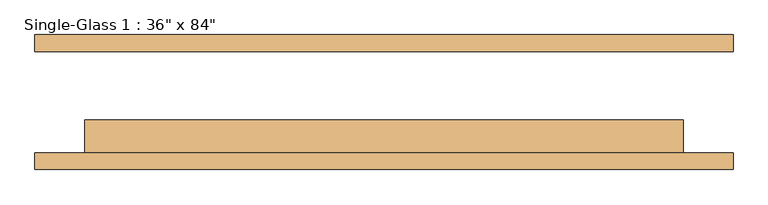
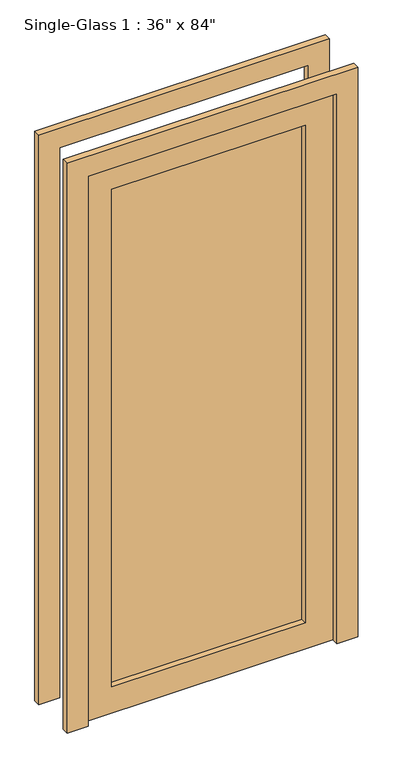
"""IFC4 building model written with IfcOpenShell, lengths in millimetres: door geometry."""

from ifc_helpers import new_model, si_unit, frame, origin, place, context, project, spatial, polyline, outline, extrude, source, transform, mapped, element, save


def door_5f5b55da(model_context):
    return source(origin(), model_context, "Body", "SweptSolid", [
        extrude(outline(polyline([(2133.6, 457.2), (0.0, 457.2), (0.0, 533.4), (2209.8, 533.4), (2209.8, -533.4), (0.0, -533.4), (0.0, -457.2), (2133.6, -457.2), (2133.6, 457.2)])), frame((0.0, 77.7875, 0.0), z_axis=(0.0, 1.0, 0.0), x_axis=(0.0, 0.0, 1.0)), (0.0, 0.0, 1.0), 25.4),
        extrude(outline(polyline([(2133.6, 457.2), (0.0, 457.2), (0.0, 533.4), (2209.8, 533.4), (2209.8, -533.4), (0.0, -533.4), (0.0, -457.2), (2133.6, -457.2), (2133.6, 457.2)])), frame((0.0, -103.1875, 0.0), z_axis=(0.0, 1.0, 0.0), x_axis=(0.0, 0.0, 1.0)), (0.0, 0.0, 1.0), 25.4),
        extrude(outline(polyline([(355.6, -49.2125), (355.6, -55.5625), (-355.6, -55.5625), (-355.6, -49.2125), (355.6, -49.2125)])), frame((0.0, 0.0, 101.6), z_axis=(0.0, 0.0, 1.0), x_axis=(1.0, 0.0, 0.0)), (0.0, 0.0, 1.0), 1930.4),
        extrude(outline(polyline([(2133.6, 457.2), (2133.6, -457.2), (0.0, -457.2), (0.0, 457.2), (2133.6, 457.2)]), holes=[polyline([(2032.0, -355.6), (2032.0, 355.6), (101.6, 355.6), (101.6, -355.6), (2032.0, -355.6)])]), frame((0.0, -77.7875, 0.0), z_axis=(0.0, 1.0, 0.0), x_axis=(0.0, 0.0, 1.0)), (0.0, 0.0, 1.0), 50.8),
    ])


if __name__ == "__main__":
    model = new_model("IFC4")
    model_context = context("Model", 3, world=origin())
    ifc_project = project(units=[si_unit("LENGTHUNIT", "METRE", prefix="MILLI")], contexts=[model_context])
    site = spatial("IfcSite", under=ifc_project)
    building = spatial("IfcBuilding", under=site)
    placement = place(None, origin())
    door_shape = door_5f5b55da(model_context)
    element("IfcDoor", 1, ObjectType="Single-Glass 1 : 36\" x 84\"", at=placement, inside=building, context=model_context, shape_type="MappedRepresentation", body=[
        mapped(door_shape, transform((0.0, 0.0, 0.0), x_axis=(1.0, 0.0, 0.0), y_axis=(0.0, 1.0, 0.0), z_axis=(0.0, 0.0, 1.0))),
    ])
    save(model, "model.ifc")
